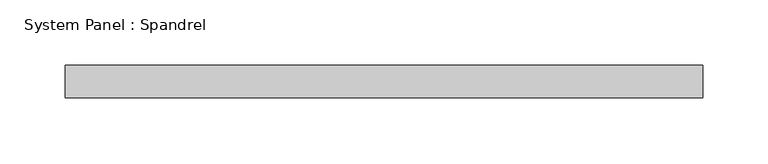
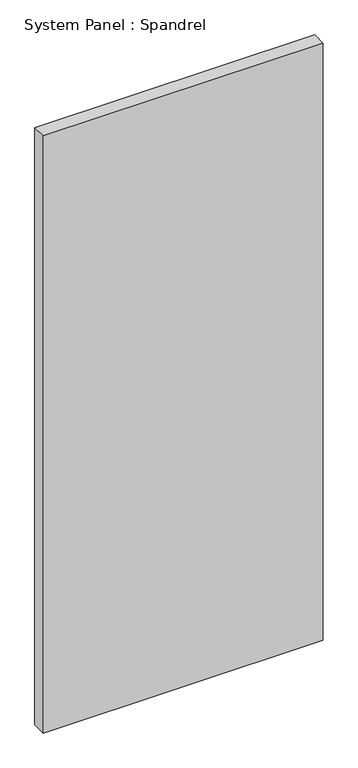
"""IFC4 building model written with IfcOpenShell, lengths in millimetres: plate geometry, System Panel : Spandrel."""

from ifc_helpers import new_model, si_unit, origin, origin_with_axes, place, context, project, spatial, polyline, outline, extrude, source, transform, mapped, element, save


def system_panel_spandrel_9b957a01(model_context):
    return source(origin(), model_context, "Body", "SweptSolid", [
        extrude(outline(polyline([(243.9999997, 0.0), (-243.9999997, 0.0), (-243.9999997, 25.0), (243.9999997, 25.0), (243.9999997, 0.0)])), origin_with_axes(), (0.0, 0.0, 1.0), 1100.0),
    ])


if __name__ == "__main__":
    model = new_model("IFC4")
    model_context = context("Model", 3, world=origin())
    ifc_project = project(units=[si_unit("LENGTHUNIT", "METRE", prefix="MILLI")], contexts=[model_context])
    site = spatial("IfcSite", under=ifc_project)
    building = spatial("IfcBuilding", under=site)
    placement = place(None, origin())
    system_panel_spandrel_shape = system_panel_spandrel_9b957a01(model_context)
    element("IfcPlate", 1, ObjectType="System Panel : Spandrel", at=placement, inside=building, context=model_context, shape_type="MappedRepresentation", body=[
        mapped(system_panel_spandrel_shape, transform((0.0, 0.0, 0.0), x_axis=(1.0, 0.0, 0.0), y_axis=(0.0, 1.0, 0.0), z_axis=(0.0, 0.0, 1.0))),
    ])
    save(model, "model.ifc")
